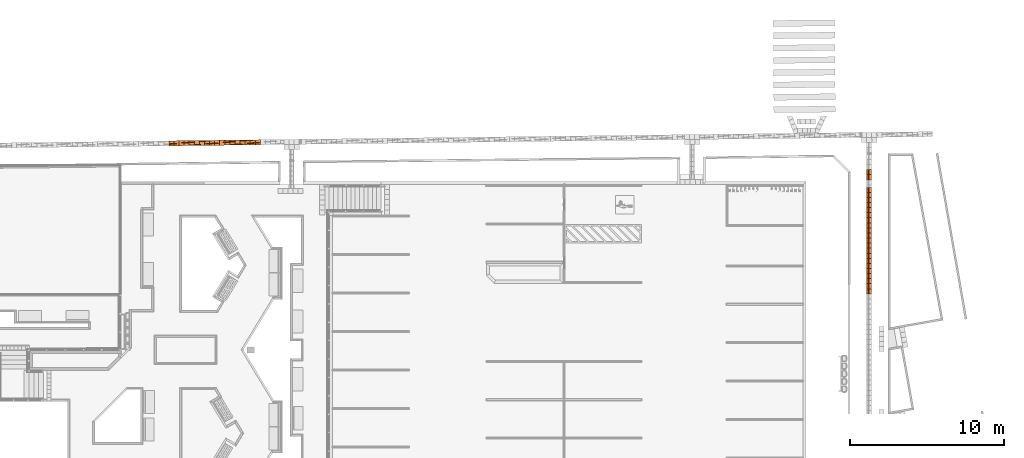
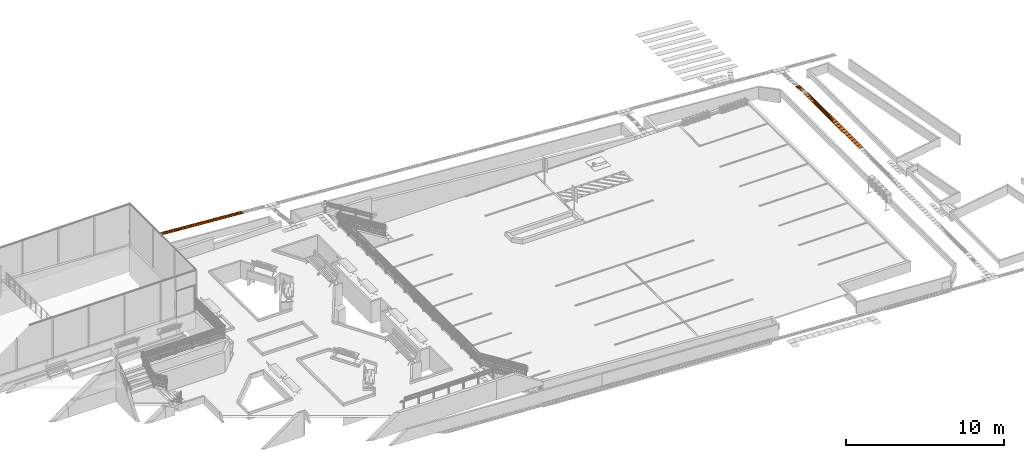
# One storey, part 197 of 237: 41 proxies.
"""IFC2X3 building model written with IfcOpenShell, lengths in millimetres."""

from ifc_helpers import new_model, entity, si_unit, converted_unit, derived_unit, money_unit, direction, frame, origin_with_axes, place, context, subcontext, project, spatial, open_shell, surface_model, source, transform, mapped, type_object, element, save


model = new_model("IFC2X3")

# Units and contexts
model_context = context("Model", 3, precision=0.01, world=origin_with_axes(), true_north=direction((0.0, 1.0)))
body_context = subcontext(model_context, "Body", "Model", "MODEL_VIEW")
ifc_project = project(units=[si_unit("LENGTHUNIT", "METRE", prefix="MILLI"), si_unit("AREAUNIT", "SQUARE_METRE"), si_unit("VOLUMEUNIT", "CUBIC_METRE"), converted_unit("PLANEANGLEUNIT", "DEGREE", entity("IfcPlaneAngleMeasure", 0.0174532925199), si_unit("PLANEANGLEUNIT", "RADIAN"), dimensions=[0, 0, 0, 0, 0, 0, 0]), money_unit("USD"), converted_unit("TIMEUNIT", "Year", entity("IfcTimeMeasure", 31556926.0), si_unit("TIMEUNIT", "SECOND"), dimensions=[0, 0, 1, 0, 0, 0, 0]), si_unit("MASSUNIT", "GRAM", prefix="KILO"), si_unit("THERMODYNAMICTEMPERATUREUNIT", "DEGREE_CELSIUS"), si_unit("LUMINOUSINTENSITYUNIT", "LUMEN"), si_unit("ENERGYUNIT", "JOULE", prefix="MEGA"), derived_unit("THERMALCONDUCTANCEUNIT", [(si_unit("POWERUNIT", "WATT"), 1), (si_unit("LENGTHUNIT", "METRE"), -1), (si_unit("THERMODYNAMICTEMPERATUREUNIT", "KELVIN"), -1)]), derived_unit("SPECIFICHEATCAPACITYUNIT", [(si_unit("ENERGYUNIT", "JOULE"), 1), (si_unit("MASSUNIT", "GRAM", prefix="KILO"), -1), (si_unit("THERMODYNAMICTEMPERATUREUNIT", "KELVIN"), -1)]), derived_unit("MASSDENSITYUNIT", [(si_unit("MASSUNIT", "GRAM", prefix="KILO"), 1), (si_unit("VOLUMEUNIT", "CUBIC_METRE"), -1)])], contexts=[model_context])

# Site, building, storey
site_placement = place(None, origin_with_axes())
site = spatial("IfcSite", under=ifc_project, at=site_placement, Name="Local", CompositionType="ELEMENT")
building_placement = place(site_placement, origin_with_axes())
building = spatial("IfcBuilding", under=site, at=building_placement, Name="Construção", CompositionType="ELEMENT")
storey_placement = place(building_placement, origin_with_axes())
storey = spatial("IfcBuildingStorey", under=building, at=storey_placement, Name="Pavimento Térreo", CompositionType="ELEMENT", Elevation=0.0)

# Proxies
building_element_proxy_type = type_object("IfcBuildingElementProxyType", Name="Piso Direcional 27", PredefinedType="NOTDEFINED")
shared_shape_1 = source(origin_with_axes(), body_context, "Body", "SurfaceModel", [
    surface_model("IfcShellBasedSurfaceModel", [(-0.309064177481, -47.258225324, 4.01664745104), (328.718344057, -47.258225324, 29.3339267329), (328.20688387, -41.665004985, 35.9809450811), (-0.820524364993, -41.665004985, 10.6636657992)], [open_shell([[[0, 1, 2, 3]]])]),
    surface_model("IfcShellBasedSurfaceModel", [(329.741264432, -153.529411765, 16.0398900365), (329.741264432, 176.470588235, 16.0398900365), (328.718344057, 176.470588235, 29.3339267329), (328.718344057, 154.097706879, 29.3339267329), (328.20688387, 148.50448654, 35.9809450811), (328.20688387, 126.131605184, 35.9809450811), (328.718344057, 120.538384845, 29.3339267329), (328.718344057, 70.1994017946, 29.3339267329), (328.20688387, 64.6061814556, 35.9809450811), (328.20688387, 42.2333000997, 35.9809450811), (328.718344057, 36.6400797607, 29.3339267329), (328.718344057, -13.6989032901, 29.3339267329), (328.20688387, -19.2921236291, 35.9809450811), (328.20688387, -41.665004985, 35.9809450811), (328.718344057, -47.258225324, 29.3339267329), (328.718344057, -97.5972083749, 29.3339267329), (328.20688387, -103.190428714, 35.9809450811), (328.20688387, -125.56331007, 35.9809450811), (328.718344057, -131.156530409, 29.3339267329), (328.718344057, -153.529411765, 29.3339267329)], [open_shell([[[0, 1, 2, 3, 4, 5, 6, 7, 8, 9, 10, 11, 12, 13, 14, 15, 16, 17, 18, 19]]])]),
    surface_model("IfcShellBasedSurfaceModel", [(-0.820524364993, -19.2921236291, 10.6636657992), (328.20688387, -19.2921236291, 35.9809450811), (328.718344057, -13.6989032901, 29.3339267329), (-0.309064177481, -13.6989032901, 4.01664745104)], [open_shell([[[0, 1, 2, 3]]])]),
    surface_model("IfcShellBasedSurfaceModel", [(-0.820524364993, -103.190428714, 10.6636657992), (328.20688387, -103.190428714, 35.9809450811), (328.718344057, -97.5972083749, 29.3339267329), (-0.309064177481, -97.5972083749, 4.01664745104)], [open_shell([[[0, 1, 2, 3]]])]),
    surface_model("IfcShellBasedSurfaceModel", [(-0.820524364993, 64.6061814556, 10.6636657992), (328.20688387, 64.6061814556, 35.9809450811), (328.718344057, 70.1994017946, 29.3339267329), (-0.309064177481, 70.1994017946, 4.01664745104)], [open_shell([[[0, 1, 2, 3]]])]),
    surface_model("IfcShellBasedSurfaceModel", [(-0.309064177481, 36.6400797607, 4.01664745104), (328.718344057, 36.6400797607, 29.3339267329), (328.20688387, 42.2333000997, 35.9809450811), (-0.820524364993, 42.2333000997, 10.6636657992)], [open_shell([[[0, 1, 2, 3]]])]),
    surface_model("IfcShellBasedSurfaceModel", [(-0.309064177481, -131.156530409, 4.01664745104), (328.718344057, -131.156530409, 29.3339267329), (328.20688387, -125.56331007, 35.9809450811), (-0.820524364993, -125.56331007, 10.6636657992)], [open_shell([[[0, 1, 2, 3]]])]),
    surface_model("IfcShellBasedSurfaceModel", [(-0.309064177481, 176.470588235, 4.01664745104), (-0.309064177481, 154.097706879, 4.01664745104), (328.718344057, 154.097706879, 29.3339267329), (328.718344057, 176.470588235, 29.3339267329)], [open_shell([[[0, 1, 2, 3]]])]),
    surface_model("IfcShellBasedSurfaceModel", [(-0.309064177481, 120.538384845, 4.01664745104), (328.718344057, 120.538384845, 29.3339267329), (328.20688387, 126.131605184, 35.9809450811), (-0.820524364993, 126.131605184, 10.6636657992)], [open_shell([[[0, 1, 2, 3]]])]),
    surface_model("IfcShellBasedSurfaceModel", [(-0.820524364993, 148.50448654, 10.6636657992), (328.20688387, 148.50448654, 35.9809450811), (328.718344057, 154.097706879, 29.3339267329), (-0.309064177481, 154.097706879, 4.01664745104)], [open_shell([[[0, 1, 2, 3]]])]),
    surface_model("IfcShellBasedSurfaceModel", [(-0.309064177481, 36.6400797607, 4.01664745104), (-0.309064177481, -13.6989032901, 4.01664745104), (328.718344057, -13.6989032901, 29.3339267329), (328.718344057, 36.6400797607, 29.3339267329)], [open_shell([[[0, 1, 2, 3]]])]),
    surface_model("IfcShellBasedSurfaceModel", [(-0.309064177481, 120.538384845, 4.01664745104), (-0.309064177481, 70.1994017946, 4.01664745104), (328.718344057, 70.1994017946, 29.3339267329), (328.718344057, 120.538384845, 29.3339267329)], [open_shell([[[0, 1, 2, 3]]])]),
    surface_model("IfcShellBasedSurfaceModel", [(-0.820524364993, 148.50448654, 10.6636657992), (-0.820524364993, 126.131605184, 10.6636657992), (328.20688387, 126.131605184, 35.9809450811), (328.20688387, 148.50448654, 35.9809450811)], [open_shell([[[0, 1, 2, 3]]])]),
    surface_model("IfcShellBasedSurfaceModel", [(-0.309064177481, 120.538384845, 4.01664745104), (-0.820524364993, 126.131605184, 10.6636657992), (-0.820524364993, 148.50448654, 10.6636657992), (-0.309064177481, 154.097706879, 4.01664745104), (-0.309064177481, 176.470588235, 4.01664745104), (0.713856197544, 176.470588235, -9.27738924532), (0.713856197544, -153.529411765, -9.27738924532), (-0.309064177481, -153.529411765, 4.01664745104), (-0.309064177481, -131.156530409, 4.01664745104), (-0.820524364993, -125.56331007, 10.6636657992), (-0.820524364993, -103.190428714, 10.6636657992), (-0.309064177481, -97.5972083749, 4.01664745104), (-0.309064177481, -47.258225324, 4.01664745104), (-0.820524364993, -41.665004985, 10.6636657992), (-0.820524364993, -19.2921236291, 10.6636657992), (-0.309064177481, -13.6989032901, 4.01664745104), (-0.309064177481, 36.6400797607, 4.01664745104), (-0.820524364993, 42.2333000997, 10.6636657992), (-0.820524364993, 64.6061814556, 10.6636657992), (-0.309064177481, 70.1994017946, 4.01664745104)], [open_shell([[[0, 1, 2, 3, 4, 5, 6, 7, 8, 9, 10, 11, 12, 13, 14, 15, 16, 17, 18, 19]]])]),
    surface_model("IfcShellBasedSurfaceModel", [(328.20688387, -41.665004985, 35.9809450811), (328.20688387, -19.2921236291, 35.9809450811), (-0.820524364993, -19.2921236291, 10.6636657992), (-0.820524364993, -41.665004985, 10.6636657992)], [open_shell([[[0, 1, 2, 3]]])]),
    surface_model("IfcShellBasedSurfaceModel", [(-0.309064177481, -47.258225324, 4.01664745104), (-0.309064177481, -97.5972083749, 4.01664745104), (328.718344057, -97.5972083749, 29.3339267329), (328.718344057, -47.258225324, 29.3339267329)], [open_shell([[[0, 1, 2, 3]]])]),
    surface_model("IfcShellBasedSurfaceModel", [(328.20688387, 42.2333000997, 35.9809450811), (328.20688387, 64.6061814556, 35.9809450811), (-0.820524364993, 64.6061814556, 10.6636657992), (-0.820524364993, 42.2333000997, 10.6636657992)], [open_shell([[[0, 1, 2, 3]]])]),
    surface_model("IfcShellBasedSurfaceModel", [(328.20688387, -125.56331007, 35.9809450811), (328.20688387, -103.190428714, 35.9809450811), (-0.820524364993, -103.190428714, 10.6636657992), (-0.820524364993, -125.56331007, 10.6636657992)], [open_shell([[[0, 1, 2, 3]]])]),
    surface_model("IfcShellBasedSurfaceModel", [(329.741264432, 176.470588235, 16.0398900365), (0.713856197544, 176.470588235, -9.27738924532), (-0.309064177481, 176.470588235, 4.01664745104), (328.718344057, 176.470588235, 29.3339267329)], [open_shell([[[0, 1, 2, 3]]])]),
    surface_model("IfcShellBasedSurfaceModel", [(329.741264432, -153.529411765, 16.0398900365), (0.713856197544, -153.529411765, -9.27738924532), (0.713856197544, 176.470588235, -9.27738924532), (329.741264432, 176.470588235, 16.0398900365)], [open_shell([[[0, 1, 2, 3]]])]),
    surface_model("IfcShellBasedSurfaceModel", [(328.718344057, -153.529411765, 29.3339267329), (328.718344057, -131.156530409, 29.3339267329), (-0.309064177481, -131.156530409, 4.01664745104), (-0.309064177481, -153.529411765, 4.01664745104)], [open_shell([[[0, 1, 2, 3]]])]),
    surface_model("IfcShellBasedSurfaceModel", [(0.713856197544, -153.529411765, -9.27738924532), (329.741264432, -153.529411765, 16.0398900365), (328.718344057, -153.529411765, 29.3339267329), (-0.309064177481, -153.529411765, 4.01664745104)], [open_shell([[[0, 1, 2, 3]]])]),
])
for number, where, z_axis, x_axis, name in (
    (1, (90493.0938685, 37146.2856577, -4612.76766271), (0.0, 0.0, 1.0), (-0.999926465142, -0.012127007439, 0.0), "Objeto-0055"),
    (2, (92806.7097064, 37174.3449575, -4797.10298389), (0.0, 0.0, 1.0), (-0.999926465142, -0.012127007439, 0.0), "Objeto-0055"),
    (3, (93466.2294679, 37182.3435467, -4848.75388048), (0.0, 0.0, 1.0), (-0.999926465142, -0.012127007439, 0.0), "Objeto-0055"),
    (4, (93135.7129196, 37178.3350753, -4822.42026317), (0.0, 0.0, 1.0), (-0.999926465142, -0.012127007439, 0.0), "Objeto-0055"),
    (5, (93796.867858, 37186.3534958, -4873.50828277), (0.0, 0.0, 1.0), (-0.999926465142, -0.012127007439, 0.0), "Objeto-0055"),
    (6, (94127.448018, 37190.3627387, -4899.01741572), (0.0, 0.0, 1.0), (-0.999926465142, -0.012127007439, 0.0), "Objeto-0055"),
    (7, (94458.028178, 37194.3719815, -4924.52654867), (0.0, 0.0, 1.0), (-0.999926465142, -0.012127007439, 0.0), "Objeto-0055"),
    (8, (94788.5513723, 37198.3805335, -4950.76484055), (0.0, 0.0, 1.0), (-0.999926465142, -0.012127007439, 0.0), "Objeto-0055"),
    (9, (95119.0679205, 37202.3890049, -4977.09845787), (0.0, 0.0, 1.0), (-0.999926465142, -0.012127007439, 0.0), "Objeto-0055"),
    (10, (95449.5844688, 37206.3974763, -5003.43207518), (0.0, 0.0, 1.0), (-0.999926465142, -0.012127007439, 0.0), "Objeto-0055"),
    (11, (95780.1010171, 37210.4059477, -5029.76569249), (0.0, 0.0, 1.0), (-0.999926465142, -0.012127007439, 0.0), "Objeto-0055"),
    (12, (91154.126965, 37154.3026005, -4665.43489733), (0.0, 0.0, 1.0), (-0.999926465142, -0.012127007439, 0.0), "Objeto-0055"),
    (13, (90162.5773202, 37142.2771862, -4586.4340454), (0.0, 0.0, 1.0), (-0.999926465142, -0.012127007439, 0.0), "Objeto-0055"),
    (14, (91484.6435133, 37158.3110719, -4691.76851464), (0.0, 0.0, 1.0), (-0.999926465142, -0.012127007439, 0.0), "Objeto-0055"),
    (15, (91815.1600615, 37162.3195433, -4718.10213195), (0.0, 0.0, 1.0), (-0.999926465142, -0.012127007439, 0.0), "Objeto-0055"),
    (16, (92145.6766098, 37166.3280147, -4744.43574926), (0.0, 0.0, 1.0), (-0.999926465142, -0.012127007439, 0.0), "Objeto-0055"),
    (17, (92476.1931581, 37170.3364861, -4770.76936658), (0.0, 0.0, 1.0), (-0.999926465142, -0.012127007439, 0.0), "Objeto-0055"),
    (18, (90823.6104167, 37150.2941291, -4639.10128002), (0.0, 0.0, 1.0), (-0.999926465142, -0.012127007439, 0.0), "Objeto-0055"),
):
    element("IfcBuildingElementProxy", number, at=place(storey_placement, frame(where, z_axis=z_axis, x_axis=x_axis)), inside=storey, type_object=building_element_proxy_type, Name=name, context=body_context, shape_type="MappedRepresentation", body=[
        mapped(shared_shape_1, transform((0.0, 0.0, 0.0))),
    ])
shared_shape_2 = source(origin_with_axes(), body_context, "Body", "SurfaceModel", [
    surface_model("IfcShellBasedSurfaceModel", [(0.0, -47.258225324, 4.02852049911), (330.0, -47.258225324, 4.02852049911), (330.0, -41.665004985, 10.6951871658), (0.0, -41.665004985, 10.6951871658)], [open_shell([[[0, 1, 2, 3]]])]),
    surface_model("IfcShellBasedSurfaceModel", [(330.0, -153.529411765, -9.30481283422), (330.0, 176.470588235, -9.30481283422), (330.0, 176.470588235, 4.02852049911), (330.0, 154.097706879, 4.02852049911), (330.0, 148.50448654, 10.6951871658), (330.0, 126.131605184, 10.6951871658), (330.0, 120.538384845, 4.02852049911), (330.0, 70.1994017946, 4.02852049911), (330.0, 64.6061814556, 10.6951871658), (330.0, 42.2333000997, 10.6951871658), (330.0, 36.6400797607, 4.02852049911), (330.0, -13.6989032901, 4.02852049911), (330.0, -19.2921236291, 10.6951871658), (330.0, -41.665004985, 10.6951871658), (330.0, -47.258225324, 4.02852049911), (330.0, -97.5972083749, 4.02852049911), (330.0, -103.190428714, 10.6951871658), (330.0, -125.56331007, 10.6951871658), (330.0, -131.156530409, 4.02852049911), (330.0, -153.529411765, 4.02852049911)], [open_shell([[[0, 1, 2, 3, 4, 5, 6, 7, 8, 9, 10, 11, 12, 13, 14, 15, 16, 17, 18, 19]]])]),
    surface_model("IfcShellBasedSurfaceModel", [(0.0, -19.2921236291, 10.6951871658), (330.0, -19.2921236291, 10.6951871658), (330.0, -13.6989032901, 4.02852049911), (0.0, -13.6989032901, 4.02852049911)], [open_shell([[[0, 1, 2, 3]]])]),
    surface_model("IfcShellBasedSurfaceModel", [(0.0, -103.190428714, 10.6951871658), (330.0, -103.190428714, 10.6951871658), (330.0, -97.5972083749, 4.02852049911), (0.0, -97.5972083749, 4.02852049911)], [open_shell([[[0, 1, 2, 3]]])]),
    surface_model("IfcShellBasedSurfaceModel", [(0.0, 64.6061814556, 10.6951871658), (330.0, 64.6061814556, 10.6951871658), (330.0, 70.1994017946, 4.02852049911), (0.0, 70.1994017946, 4.02852049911)], [open_shell([[[0, 1, 2, 3]]])]),
    surface_model("IfcShellBasedSurfaceModel", [(0.0, 36.6400797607, 4.02852049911), (330.0, 36.6400797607, 4.02852049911), (330.0, 42.2333000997, 10.6951871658), (0.0, 42.2333000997, 10.6951871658)], [open_shell([[[0, 1, 2, 3]]])]),
    surface_model("IfcShellBasedSurfaceModel", [(0.0, -131.156530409, 4.02852049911), (330.0, -131.156530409, 4.02852049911), (330.0, -125.56331007, 10.6951871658), (0.0, -125.56331007, 10.6951871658)], [open_shell([[[0, 1, 2, 3]]])]),
    surface_model("IfcShellBasedSurfaceModel", [(0.0, 176.470588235, 4.02852049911), (0.0, 154.097706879, 4.02852049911), (330.0, 154.097706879, 4.02852049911), (330.0, 176.470588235, 4.02852049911)], [open_shell([[[0, 1, 2, 3]]])]),
    surface_model("IfcShellBasedSurfaceModel", [(0.0, 120.538384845, 4.02852049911), (330.0, 120.538384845, 4.02852049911), (330.0, 126.131605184, 10.6951871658), (0.0, 126.131605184, 10.6951871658)], [open_shell([[[0, 1, 2, 3]]])]),
    surface_model("IfcShellBasedSurfaceModel", [(0.0, 148.50448654, 10.6951871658), (330.0, 148.50448654, 10.6951871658), (330.0, 154.097706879, 4.02852049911), (0.0, 154.097706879, 4.02852049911)], [open_shell([[[0, 1, 2, 3]]])]),
    surface_model("IfcShellBasedSurfaceModel", [(0.0, 36.6400797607, 4.02852049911), (0.0, -13.6989032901, 4.02852049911), (330.0, -13.6989032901, 4.02852049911), (330.0, 36.6400797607, 4.02852049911)], [open_shell([[[0, 1, 2, 3]]])]),
    surface_model("IfcShellBasedSurfaceModel", [(0.0, 120.538384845, 4.02852049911), (0.0, 70.1994017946, 4.02852049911), (330.0, 70.1994017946, 4.02852049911), (330.0, 120.538384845, 4.02852049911)], [open_shell([[[0, 1, 2, 3]]])]),
    surface_model("IfcShellBasedSurfaceModel", [(0.0, 148.50448654, 10.6951871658), (0.0, 126.131605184, 10.6951871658), (330.0, 126.131605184, 10.6951871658), (330.0, 148.50448654, 10.6951871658)], [open_shell([[[0, 1, 2, 3]]])]),
    surface_model("IfcShellBasedSurfaceModel", [(0.0, 120.538384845, 4.02852049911), (0.0, 126.131605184, 10.6951871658), (0.0, 148.50448654, 10.6951871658), (0.0, 154.097706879, 4.02852049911), (0.0, 176.470588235, 4.02852049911), (0.0, 176.470588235, -9.30481283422), (0.0, -153.529411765, -9.30481283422), (0.0, -153.529411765, 4.02852049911), (0.0, -131.156530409, 4.02852049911), (0.0, -125.56331007, 10.6951871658), (0.0, -103.190428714, 10.6951871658), (0.0, -97.5972083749, 4.02852049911), (0.0, -47.258225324, 4.02852049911), (0.0, -41.665004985, 10.6951871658), (0.0, -19.2921236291, 10.6951871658), (0.0, -13.6989032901, 4.02852049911), (0.0, 36.6400797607, 4.02852049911), (0.0, 42.2333000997, 10.6951871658), (0.0, 64.6061814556, 10.6951871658), (0.0, 70.1994017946, 4.02852049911)], [open_shell([[[0, 1, 2, 3, 4, 5, 6, 7, 8, 9, 10, 11, 12, 13, 14, 15, 16, 17, 18, 19]]])]),
    surface_model("IfcShellBasedSurfaceModel", [(330.0, -41.665004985, 10.6951871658), (330.0, -19.2921236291, 10.6951871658), (0.0, -19.2921236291, 10.6951871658), (0.0, -41.665004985, 10.6951871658)], [open_shell([[[0, 1, 2, 3]]])]),
    surface_model("IfcShellBasedSurfaceModel", [(0.0, -47.258225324, 4.02852049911), (0.0, -97.5972083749, 4.02852049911), (330.0, -97.5972083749, 4.02852049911), (330.0, -47.258225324, 4.02852049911)], [open_shell([[[0, 1, 2, 3]]])]),
    surface_model("IfcShellBasedSurfaceModel", [(330.0, 42.2333000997, 10.6951871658), (330.0, 64.6061814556, 10.6951871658), (0.0, 64.6061814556, 10.6951871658), (0.0, 42.2333000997, 10.6951871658)], [open_shell([[[0, 1, 2, 3]]])]),
    surface_model("IfcShellBasedSurfaceModel", [(330.0, -125.56331007, 10.6951871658), (330.0, -103.190428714, 10.6951871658), (0.0, -103.190428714, 10.6951871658), (0.0, -125.56331007, 10.6951871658)], [open_shell([[[0, 1, 2, 3]]])]),
    surface_model("IfcShellBasedSurfaceModel", [(330.0, 176.470588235, -9.30481283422), (0.0, 176.470588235, -9.30481283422), (0.0, 176.470588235, 4.02852049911), (330.0, 176.470588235, 4.02852049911)], [open_shell([[[0, 1, 2, 3]]])]),
    surface_model("IfcShellBasedSurfaceModel", [(330.0, -153.529411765, -9.30481283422), (0.0, -153.529411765, -9.30481283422), (0.0, 176.470588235, -9.30481283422), (330.0, 176.470588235, -9.30481283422)], [open_shell([[[0, 1, 2, 3]]])]),
    surface_model("IfcShellBasedSurfaceModel", [(330.0, -153.529411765, 4.02852049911), (330.0, -131.156530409, 4.02852049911), (0.0, -131.156530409, 4.02852049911), (0.0, -153.529411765, 4.02852049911)], [open_shell([[[0, 1, 2, 3]]])]),
    surface_model("IfcShellBasedSurfaceModel", [(0.0, -153.529411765, -9.30481283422), (330.0, -153.529411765, -9.30481283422), (330.0, -153.529411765, 4.02852049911), (0.0, -153.529411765, 4.02852049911)], [open_shell([[[0, 1, 2, 3]]])]),
])
for number, where, z_axis, x_axis, name in (
    (19, (135346.086311, 34269.9310034, -7950.45972068), (0.0, 0.0, 1.0), (0.0, -1.0, 0.0), "Objeto-0055"),
    (20, (135346.086311, 33940.3948996, -7950.45972068), (0.0, 0.0, 1.0), (0.0, -1.0, 0.0), "Objeto-0055"),
    (21, (135346.086311, 33610.8587958, -7950.45972068), (0.0, 0.0, 1.0), (0.0, -1.0, 0.0), "Objeto-0055"),
    (22, (135346.086311, 33281.3246255, -7949.07715332), (0.0, 0.0, 1.0), (0.0, -1.0, 0.0), "Objeto-0055"),
    (23, (135346.086311, 32951.7891663, -7948.61629753), (0.0, 0.0, 1.0), (0.0, -1.0, 0.0), "Objeto-0055"),
    (24, (135346.086311, 32622.2504844, -7948.74029177), (0.0, 0.0, 1.0), (0.0, -1.0, 0.0), "Objeto-0055"),
    (25, (135346.086311, 32292.2504844, -7948.71273472), (0.0, 0.0, 1.0), (0.0, -1.0, 0.0), "Objeto-0055"),
    (26, (135346.086311, 31962.7143807, -7948.10772113), (0.0, 0.0, 1.0), (0.0, -1.0, 0.0), "Objeto-0055"),
    (27, (135346.086311, 31632.9463288, -7947.12638735), (0.0, 0.0, 1.0), (0.0, -1.0, 0.0), "Objeto-0055"),
    (28, (135346.086311, 31303.6421731, -7947.12638735), (0.0, 0.0, 1.0), (0.0, -1.0, 0.0), "Objeto-0055"),
    (29, (135346.086311, 30974.1078536, -7945.85050752), (0.0, 0.0, 1.0), (0.0, -1.0, 0.0), "Objeto-0055"),
    (30, (135346.086311, 30644.0577862, -7943.54261212), (0.0, 0.0, 1.0), (0.0, -1.0, 0.0), "Objeto-0055"),
    (31, (135346.086311, 30314.0044911, -7943.54261212), (0.0, 0.0, 1.0), (0.0, -1.0, 0.0), "Objeto-0055"),
    (32, (135346.086311, 29983.951196, -7943.54261212), (0.0, 0.0, 1.0), (0.0, -1.0, 0.0), "Objeto-0055"),
    (33, (135346.086311, 29653.897901, -7943.54261212), (0.0, 0.0, 1.0), (0.0, -1.0, 0.0), "Objeto-0055"),
    (34, (135346.086311, 29323.8446059, -7943.54261212), (0.0, 0.0, 1.0), (0.0, -1.0, 0.0), "Objeto-0055"),
    (35, (135346.086311, 28993.8452513, -7943.08110758), (0.0, 0.0, 1.0), (0.0, -1.0, 0.0), "Objeto-0055"),
    (36, (135346.086311, 28663.7926018, -7942.6195285), (0.0, 0.0, 1.0), (0.0, -1.0, 0.0), "Objeto-0055"),
    (37, (135346.086311, 28333.7399523, -7942.15794942), (0.0, 0.0, 1.0), (0.0, -1.0, 0.0), "Objeto-0055"),
    (38, (135346.086311, 28003.6873027, -7941.69637034), (0.0, 0.0, 1.0), (0.0, -1.0, 0.0), "Objeto-0055"),
    (39, (135346.086311, 27673.6346532, -7941.23479126), (0.0, 0.0, 1.0), (0.0, -1.0, 0.0), "Objeto-0055"),
):
    element("IfcBuildingElementProxy", number, at=place(storey_placement, frame(where, z_axis=z_axis, x_axis=x_axis)), inside=storey, type_object=building_element_proxy_type, Name=name, context=body_context, shape_type="MappedRepresentation", body=[
        mapped(shared_shape_2, transform((0.0, 0.0, 0.0))),
    ])
shared_shape_3 = source(origin_with_axes(), body_context, "Body", "SurfaceModel", [
    surface_model("IfcShellBasedSurfaceModel", [(-0.637568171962, -46.8620912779, 7.2874375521), (328.106682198, -46.8620912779, 36.0488326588), (327.561064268, -40.8174525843, 42.2852741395), (-1.18318610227, -40.8174525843, 13.5238790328)], [open_shell([[[0, 1, 2, 3]]])]),
    surface_model("IfcShellBasedSurfaceModel", [(328.61983349, -153.804492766, 30.1834865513), (330.626126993, 175.39164382, 7.25144688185), (329.466881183, 176.321730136, 20.5016871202), (329.330861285, 154.003347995, 22.0564016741), (328.717233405, 148.888795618, 29.0702004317), (328.581213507, 126.570413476, 30.6249149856), (329.126831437, 120.525774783, 24.3884735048), (328.820786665, 70.3094149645, 27.886581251), (328.207158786, 65.1948625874, 34.9003800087), (328.071138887, 42.876480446, 36.4550945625), (328.616756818, 36.8318417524, 30.2186530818), (328.310712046, -13.3845180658, 33.716760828), (327.697084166, -18.4990704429, 40.7305595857), (327.561064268, -40.8174525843, 42.2852741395), (328.106682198, -46.8620912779, 36.0488326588), (327.800637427, -97.0784510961, 39.546940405), (327.187009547, -102.193003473, 46.5607391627), (327.050989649, -124.511385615, 48.1154537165), (327.596607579, -130.556024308, 41.8790122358), (327.460587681, -152.87440645, 43.4337267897)], [open_shell([[[0, 1, 2, 3, 4, 5, 6, 7, 8, 9, 10, 11, 12, 13, 14, 15, 16, 17, 18, 19]]])]),
    surface_model("IfcShellBasedSurfaceModel", [(-1.04716620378, -18.4990704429, 11.9691644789), (327.697084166, -18.4990704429, 40.7305595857), (328.310712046, -13.3845180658, 33.716760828), (-0.433538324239, -13.3845180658, 4.9553657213)], [open_shell([[[0, 1, 2, 3]]])]),
    surface_model("IfcShellBasedSurfaceModel", [(-1.55724082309, -102.193003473, 17.7993440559), (327.187009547, -102.193003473, 46.5607391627), (327.800637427, -97.0784510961, 39.546940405), (-0.943612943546, -97.0784510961, 10.7855452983)], [open_shell([[[0, 1, 2, 3]]])]),
    surface_model("IfcShellBasedSurfaceModel", [(-0.537091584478, 65.1948625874, 6.13898490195), (328.207158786, 65.1948625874, 34.9003800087), (328.820786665, 70.3094149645, 27.886581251), (0.0765362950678, 70.3094149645, -0.874813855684)], [open_shell([[[0, 1, 2, 3]]])]),
    surface_model("IfcShellBasedSurfaceModel", [(-0.127493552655, 36.8318417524, 1.45725797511), (328.616756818, 36.8318417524, 30.2186530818), (328.071138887, 42.876480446, 36.4550945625), (-0.67311148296, 42.876480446, 7.69369945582)], [open_shell([[[0, 1, 2, 3]]])]),
    surface_model("IfcShellBasedSurfaceModel", [(-1.14764279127, -130.556024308, 13.1176171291), (327.596607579, -130.556024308, 41.8790122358), (327.050989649, -124.511385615, 48.1154537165), (-1.69326072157, -124.511385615, 19.3540586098)], [open_shell([[[0, 1, 2, 3]]])]),
    surface_model("IfcShellBasedSurfaceModel", [(0.722630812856, 176.321730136, -8.25970798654), (0.586610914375, 154.003347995, -6.70499343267), (329.330861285, 154.003347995, 22.0564016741), (329.466881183, 176.321730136, 20.5016871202)], [open_shell([[[0, 1, 2, 3]]])]),
    surface_model("IfcShellBasedSurfaceModel", [(0.382581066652, 120.525774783, -4.37292160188), (329.126831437, 120.525774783, 24.3884735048), (328.581213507, 126.570413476, 30.6249149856), (-0.163036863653, 126.570413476, 1.86351987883)], [open_shell([[[0, 1, 2, 3]]])]),
    surface_model("IfcShellBasedSurfaceModel", [(-0.0270169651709, 148.888795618, 0.308805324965), (328.717233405, 148.888795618, 29.0702004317), (329.330861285, 154.003347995, 22.0564016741), (0.586610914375, 154.003347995, -6.70499343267)], [open_shell([[[0, 1, 2, 3]]])]),
    surface_model("IfcShellBasedSurfaceModel", [(-0.127493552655, 36.8318417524, 1.45725797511), (-0.433538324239, -13.3845180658, 4.9553657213), (328.310712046, -13.3845180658, 33.716760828), (328.616756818, 36.8318417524, 30.2186530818)], [open_shell([[[0, 1, 2, 3]]])]),
    surface_model("IfcShellBasedSurfaceModel", [(0.382581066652, 120.525774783, -4.37292160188), (0.0765362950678, 70.3094149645, -0.874813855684), (328.820786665, 70.3094149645, 27.886581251), (329.126831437, 120.525774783, 24.3884735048)], [open_shell([[[0, 1, 2, 3]]])]),
    surface_model("IfcShellBasedSurfaceModel", [(-0.0270169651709, 148.888795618, 0.308805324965), (-0.163036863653, 126.570413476, 1.86351987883), (328.581213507, 126.570413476, 30.6249149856), (328.717233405, 148.888795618, 29.0702004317)], [open_shell([[[0, 1, 2, 3]]])]),
    surface_model("IfcShellBasedSurfaceModel", [(0.382581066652, 120.525774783, -4.37292160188), (-0.163036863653, 126.570413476, 1.86351987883), (-0.0270169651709, 148.888795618, 0.308805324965), (0.586610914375, 154.003347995, -6.70499343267), (0.722630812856, 176.321730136, -8.25970798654), (1.88187662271, 175.39164382, -21.5099482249), (-0.1244168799, -153.804492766, 1.42209144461), (-1.28366268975, -152.87440645, 14.672331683), (-1.14764279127, -130.556024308, 13.1176171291), (-1.69326072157, -124.511385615, 19.3540586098), (-1.55724082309, -102.193003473, 17.7993440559), (-0.943612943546, -97.0784510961, 10.7855452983), (-0.637568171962, -46.8620912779, 7.2874375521), (-1.18318610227, -40.8174525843, 13.5238790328), (-1.04716620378, -18.4990704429, 11.9691644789), (-0.433538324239, -13.3845180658, 4.9553657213), (-0.127493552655, 36.8318417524, 1.45725797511), (-0.67311148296, 42.876480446, 7.69369945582), (-0.537091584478, 65.1948625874, 6.13898490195), (0.0765362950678, 70.3094149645, -0.874813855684)], [open_shell([[[0, 1, 2, 3, 4, 5, 6, 7, 8, 9, 10, 11, 12, 13, 14, 15, 16, 17, 18, 19]]])]),
    surface_model("IfcShellBasedSurfaceModel", [(327.561064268, -40.8174525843, 42.2852741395), (327.697084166, -18.4990704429, 40.7305595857), (-1.04716620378, -18.4990704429, 11.9691644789), (-1.18318610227, -40.8174525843, 13.5238790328)], [open_shell([[[0, 1, 2, 3]]])]),
    surface_model("IfcShellBasedSurfaceModel", [(-0.637568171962, -46.8620912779, 7.2874375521), (-0.943612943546, -97.0784510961, 10.7855452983), (327.800637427, -97.0784510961, 39.546940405), (328.106682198, -46.8620912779, 36.0488326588)], [open_shell([[[0, 1, 2, 3]]])]),
    surface_model("IfcShellBasedSurfaceModel", [(328.071138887, 42.876480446, 36.4550945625), (328.207158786, 65.1948625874, 34.9003800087), (-0.537091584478, 65.1948625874, 6.13898490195), (-0.67311148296, 42.876480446, 7.69369945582)], [open_shell([[[0, 1, 2, 3]]])]),
    surface_model("IfcShellBasedSurfaceModel", [(327.050989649, -124.511385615, 48.1154537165), (327.187009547, -102.193003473, 46.5607391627), (-1.55724082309, -102.193003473, 17.7993440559), (-1.69326072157, -124.511385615, 19.3540586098)], [open_shell([[[0, 1, 2, 3]]])]),
    surface_model("IfcShellBasedSurfaceModel", [(330.626126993, 175.39164382, 7.25144688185), (1.88187662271, 175.39164382, -21.5099482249), (0.722630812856, 176.321730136, -8.25970798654), (329.466881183, 176.321730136, 20.5016871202)], [open_shell([[[0, 1, 2, 3]]])]),
    surface_model("IfcShellBasedSurfaceModel", [(328.61983349, -153.804492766, 30.1834865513), (-0.1244168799, -153.804492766, 1.42209144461), (1.88187662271, 175.39164382, -21.5099482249), (330.626126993, 175.39164382, 7.25144688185)], [open_shell([[[0, 1, 2, 3]]])]),
    surface_model("IfcShellBasedSurfaceModel", [(327.460587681, -152.87440645, 43.4337267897), (327.596607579, -130.556024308, 41.8790122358), (-1.14764279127, -130.556024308, 13.1176171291), (-1.28366268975, -152.87440645, 14.672331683)], [open_shell([[[0, 1, 2, 3]]])]),
    surface_model("IfcShellBasedSurfaceModel", [(-0.1244168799, -153.804492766, 1.42209144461), (328.61983349, -153.804492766, 30.1834865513), (327.460587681, -152.87440645, 43.4337267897), (-1.28366268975, -152.87440645, 14.672331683)], [open_shell([[[0, 1, 2, 3]]])]),
])
for number, where, z_axis, x_axis, name in (
    (40, (135346.086311, 35417.7430312, -8033.8815715), (0.0, 0.0, 1.0), (0.0, -1.0, 0.0), "Objeto-0055"),
    (41, (135346.086311, 35088.5057087, -8010.75601665), (0.0, 0.0, 1.0), (0.0, -1.0, 0.0), "Objeto-0055"),
):
    element("IfcBuildingElementProxy", number, at=place(storey_placement, frame(where, z_axis=z_axis, x_axis=x_axis)), inside=storey, type_object=building_element_proxy_type, Name=name, context=body_context, shape_type="MappedRepresentation", body=[
        mapped(shared_shape_3, transform((0.0, 0.0, 0.0))),
    ])

save(model, "model.ifc")
